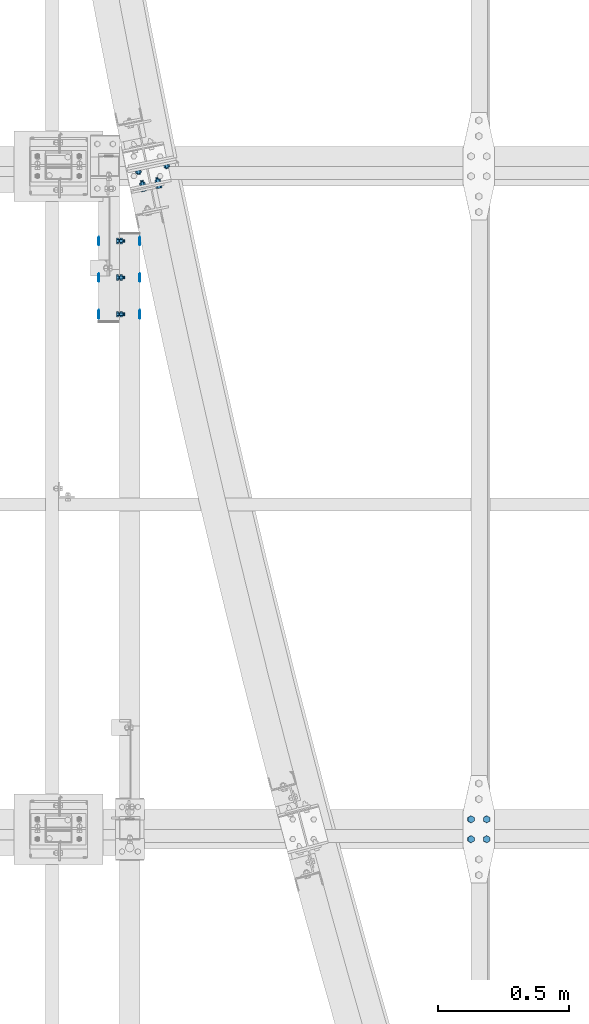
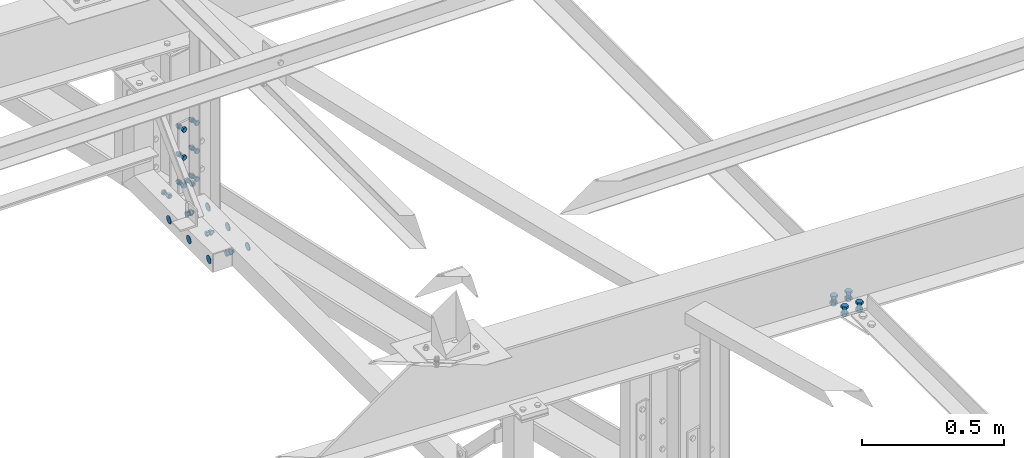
# One storey, part 65 of 3134: 6 mechanical fasteners, 5 elements without a shape of their own.
"""IFC2X3 building model written with IfcOpenShell, lengths in millimetres."""

from ifc_helpers import new_model, si_unit, frame, origin_with_axes, place, context, subcontext, project, spatial, faceted_brep, source, transform, mapped, material, type_object, element, aggregate, save


model = new_model("IFC2X3")

# Units and contexts
model_context = context("Model", 3, precision=1e-05, world=origin_with_axes())
body_context = subcontext(model_context, "Body", "Model", "MODEL_VIEW")
ifc_project = project(units=[si_unit("LENGTHUNIT", "METRE", prefix="MILLI"), si_unit("AREAUNIT", "SQUARE_METRE"), si_unit("VOLUMEUNIT", "CUBIC_METRE"), si_unit("MASSUNIT", "GRAM", prefix="KILO"), si_unit("TIMEUNIT", "SECOND"), si_unit("PLANEANGLEUNIT", "RADIAN"), si_unit("SOLIDANGLEUNIT", "STERADIAN"), si_unit("THERMODYNAMICTEMPERATUREUNIT", "DEGREE_CELSIUS"), si_unit("LUMINOUSINTENSITYUNIT", "LUMEN")], contexts=[model_context])

# Site, building, storey
site_placement = place(None, origin_with_axes())
site = spatial("IfcSite", under=ifc_project, at=site_placement, CompositionType="ELEMENT")
building_placement = place(site_placement, origin_with_axes())
building = spatial("IfcBuilding", under=site, at=building_placement, Name="Undefined", CompositionType="ELEMENT")
storey_placement = place(building_placement, origin_with_axes())
storey = spatial("IfcBuildingStorey", under=building, at=storey_placement, Name="Undefined", CompositionType="ELEMENT", Elevation=0.0)

# Assembly, mechanical fastener
assembly_1_placement = place(storey_placement, origin_with_axes())
assembly_1 = element("IfcElementAssembly", 1, at=assembly_1_placement, inside=storey, AssemblyPlace="NOTDEFINED", PredefinedType="RIGID_FRAME")
ifc_material = material(Name="8.8")
mechanical_fastener_type = type_object("IfcMechanicalFastenerType", Name="Bolt assembly")
shared_shape_1 = source(origin_with_axes(), body_context, "Body", "Brep", [
    faceted_brep([(16.5, -3.0, 0.0), (14.289419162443, -3.0, 8.25000000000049), (8.24999999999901, -3.0, 14.2894191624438), (-1.70995436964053e-12, -3.0, 16.5), (-8.25000000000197, -3.0, 14.2894191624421), (-14.2894191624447, -3.0, 8.24999999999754), (-16.5, -3.0, -3.41990873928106e-12), (-14.2894191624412, -3.0, -8.25000000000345), (-8.24999999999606, -3.0, -14.2894191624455), (5.11154442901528e-12, -3.0, -16.5), (8.25000000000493, -3.0, -14.2894191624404), (14.2894191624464, -3.0, -8.24999999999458), (14.2894191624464, 0.1, -8.24999999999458), (8.25000000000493, 0.1, -14.2894191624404), (5.11154442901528e-12, 0.1, -16.5), (-8.24999999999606, 0.1, -14.2894191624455), (-14.2894191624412, 0.1, -8.25000000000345), (-16.5, 0.1, -3.41990873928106e-12), (-14.2894191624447, 0.1, 8.24999999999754), (-8.25000000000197, 0.1, 14.2894191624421), (-1.70995436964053e-12, 0.1, 16.5), (8.24999999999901, 0.1, 14.2894191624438), (14.289419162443, 0.1, 8.25000000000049), (16.5, 0.1, 0.0)], [[[0, 1, 2, 3, 4, 5, 6, 7, 8, 9, 10, 11]], [[12, 13, 14, 15, 16, 17, 18, 19, 20, 21, 22, 23]], [[0, 23, 22, 1]], [[1, 22, 21, 2]], [[2, 21, 20, 3]], [[3, 20, 19, 4]], [[4, 19, 18, 5]], [[5, 18, 17, 6]], [[6, 17, 16, 7]], [[7, 16, 15, 8]], [[8, 15, 14, 9]], [[9, 14, 13, 10]], [[10, 13, 12, 11]], [[11, 12, 23, 0]]]),
])
mechanical_fastener_1_placement = place(assembly_1_placement, frame((3355.0, 24227.5, 3080.0), z_axis=(0.0, 0.0, 1.0), x_axis=(0.0, -1.0, 0.0)))
mechanical_fastener_1 = element("IfcMechanicalFastener", 2, at=mechanical_fastener_1_placement, type_object=mechanical_fastener_type, material=ifc_material, Name="Bolt assembly", NominalDiameter=30.0, NominalLength=3.0, context=body_context, shape_type="MappedRepresentation", body=[
    mapped(shared_shape_1, transform((0.0, 0.0, 0.0))),
    mapped(shared_shape_1, transform((140.0, 0.0, 0.0))),
    mapped(shared_shape_1, transform((280.0, 0.0, 0.0))),
])
aggregate(assembly_1, [mechanical_fastener_1])

# Assembly, mechanical fasteners
assembly_2_placement = place(storey_placement, origin_with_axes())
assembly_2 = element("IfcElementAssembly", 3, at=assembly_2_placement, inside=storey, AssemblyPlace="NOTDEFINED", PredefinedType="RIGID_FRAME")
shared_shape_2 = source(origin_with_axes(), body_context, "Body", "Brep", [
    faceted_brep([(16.5, 0.0, 0.0), (14.289419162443, 0.0, 8.25000000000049), (8.24999999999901, 0.0, 14.2894191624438), (-1.70995436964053e-12, 0.0, 16.5), (-8.25000000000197, 0.0, 14.2894191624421), (-14.2894191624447, 0.0, 8.24999999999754), (-16.5, 0.0, -3.41990873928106e-12), (-14.2894191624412, 0.0, -8.25000000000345), (-8.24999999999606, 0.0, -14.2894191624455), (5.11154442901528e-12, 0.0, -16.5), (8.25000000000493, 0.0, -14.2894191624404), (14.2894191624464, 0.0, -8.24999999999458), (14.2894191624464, 3.1, -8.24999999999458), (8.25000000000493, 3.1, -14.2894191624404), (5.11154442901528e-12, 3.1, -16.5), (-8.24999999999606, 3.1, -14.2894191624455), (-14.2894191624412, 3.1, -8.25000000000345), (-16.5, 3.1, -3.41990873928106e-12), (-14.2894191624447, 3.1, 8.24999999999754), (-8.25000000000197, 3.1, 14.2894191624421), (-1.70995436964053e-12, 3.1, 16.5), (8.24999999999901, 3.1, 14.2894191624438), (14.289419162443, 3.1, 8.25000000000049), (16.5, 3.1, 0.0)], [[[0, 1, 2, 3, 4, 5, 6, 7, 8, 9, 10, 11]], [[12, 13, 14, 15, 16, 17, 18, 19, 20, 21, 22, 23]], [[0, 23, 22, 1]], [[1, 22, 21, 2]], [[2, 21, 20, 3]], [[3, 20, 19, 4]], [[4, 19, 18, 5]], [[5, 18, 17, 6]], [[6, 17, 16, 7]], [[7, 16, 15, 8]], [[8, 15, 14, 9]], [[9, 14, 13, 10]], [[10, 13, 12, 11]], [[11, 12, 23, 0]]]),
])
mechanical_fastener_2_placement = place(assembly_2_placement, frame((3195.0, 24227.5, 3080.0), z_axis=(0.0, 0.0, 1.0), x_axis=(0.0, -1.0, 0.0)))
mechanical_fastener_2 = element("IfcMechanicalFastener", 4, at=mechanical_fastener_2_placement, type_object=mechanical_fastener_type, material=ifc_material, Name="Bolt assembly", NominalDiameter=30.0, NominalLength=3.0, context=body_context, shape_type="MappedRepresentation", body=[
    mapped(shared_shape_2, transform((0.0, 0.0, 0.0))),
    mapped(shared_shape_2, transform((140.0, 0.0, 0.0))),
    mapped(shared_shape_2, transform((280.0, 0.0, 0.0))),
])
shared_shape_3 = source(origin_with_axes(), body_context, "Body", "Brep", [
    faceted_brep([(10.9696551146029, -11.0, 0.0), (5.48482755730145, -11.0, 9.5), (-5.48482755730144, -11.0, 9.5), (-10.9696551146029, -11.0, 1.34339530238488e-15), (-5.48482755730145, -11.0, -9.5), (5.48482755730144, -11.0, -9.50000000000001), (5.48482755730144, -3.0, -9.50000000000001), (-5.48482755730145, -3.0, -9.5), (-10.9696551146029, -3.0, 1.34339530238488e-15), (-5.48482755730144, -3.0, 9.5), (5.48482755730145, -3.0, 9.5), (10.9696551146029, -3.0, 0.0), (6.0, -3.0, 0.0), (5.19615242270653, -3.0, 3.00000000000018), (2.99999999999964, -3.0, 5.19615242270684), (-6.21801588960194e-13, -3.0, 6.0), (-3.00000000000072, -3.0, 5.19615242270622), (-5.19615242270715, -3.0, 2.9999999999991), (-6.0, -3.0, -1.24360317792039e-12), (-5.19615242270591, -3.0, -3.00000000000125), (-2.99999999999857, -3.0, -5.19615242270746), (1.85874342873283e-12, -3.0, -6.0), (3.00000000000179, -3.0, -5.1961524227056), (5.19615242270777, -3.0, -2.99999999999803), (5.19615242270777, 22.0, -2.99999999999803), (3.00000000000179, 22.0, -5.1961524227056), (1.85874342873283e-12, 22.0, -6.0), (-2.99999999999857, 22.0, -5.19615242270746), (-5.19615242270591, 22.0, -3.00000000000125), (-6.0, 22.0, -1.24360317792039e-12), (-5.19615242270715, 22.0, 2.9999999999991), (-3.00000000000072, 22.0, 5.19615242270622), (-6.21801588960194e-13, 22.0, 6.0), (2.99999999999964, 22.0, 5.19615242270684), (5.19615242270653, 22.0, 3.00000000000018), (6.0, 22.0, 0.0), (10.9696551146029, 3.00000000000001, 0.0), (5.48482755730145, 3.00000000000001, 9.5), (-5.48482755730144, 3.00000000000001, 9.5), (-10.9696551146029, 3.00000000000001, 1.34339530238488e-15), (-5.48482755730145, 3.00000000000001, -9.5), (5.48482755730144, 3.00000000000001, -9.50000000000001), (5.48482755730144, 13.0, -9.50000000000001), (-5.48482755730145, 13.0, -9.5), (-10.9696551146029, 13.0, 1.34339530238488e-15), (-5.48482755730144, 13.0, 9.5), (5.48482755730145, 13.0, 9.5), (10.9696551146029, 13.0, 0.0)], [[[0, 1, 2, 3, 4, 5]], [[6, 7, 8, 9, 10, 11]], [[0, 11, 10, 1]], [[1, 10, 9, 2]], [[2, 9, 8, 3]], [[3, 8, 7, 4]], [[4, 7, 6, 5]], [[5, 6, 11, 0]], [[12, 13, 14, 15, 16, 17, 18, 19, 20, 21, 22, 23]], [[24, 25, 26, 27, 28, 29, 30, 31, 32, 33, 34, 35]], [[12, 35, 34, 13]], [[13, 34, 33, 14]], [[14, 33, 32, 15]], [[15, 32, 31, 16]], [[16, 31, 30, 17]], [[17, 30, 29, 18]], [[18, 29, 28, 19]], [[19, 28, 27, 20]], [[20, 27, 26, 21]], [[21, 26, 25, 22]], [[22, 25, 24, 23]], [[23, 24, 35, 12]], [[36, 37, 38, 39, 40, 41]], [[42, 43, 44, 45, 46, 47]], [[36, 47, 46, 37]], [[37, 46, 45, 38]], [[38, 45, 44, 39]], [[39, 44, 43, 40]], [[40, 43, 42, 41]], [[41, 42, 47, 36]]]),
    faceted_brep([(7.0, -0.1, 0.0), (6.06217782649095, -0.1, 3.50000000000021), (3.49999999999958, -0.1, 6.06217782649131), (-7.25435187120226e-13, -0.1, 7.0), (-3.50000000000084, -0.1, 6.06217782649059), (-6.06217782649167, -0.1, 3.49999999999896), (-7.0, -0.1, -1.45087037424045e-12), (-6.06217782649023, -0.1, -3.50000000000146), (-3.49999999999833, -0.1, -6.06217782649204), (2.1685340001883e-12, -0.1, -7.0), (3.50000000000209, -0.1, -6.06217782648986), (6.0621778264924, -0.1, -3.4999999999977), (6.0621778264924, 3.0, -3.4999999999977), (3.50000000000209, 3.0, -6.06217782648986), (2.1685340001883e-12, 3.0, -7.0), (-3.49999999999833, 3.0, -6.06217782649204), (-6.06217782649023, 3.0, -3.50000000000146), (-7.0, 3.0, -1.45087037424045e-12), (-6.06217782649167, 3.0, 3.49999999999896), (-3.50000000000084, 3.0, 6.06217782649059), (-7.25435187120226e-13, 3.0, 7.0), (3.49999999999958, 3.0, 6.06217782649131), (6.06217782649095, 3.0, 3.50000000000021), (7.0, 3.0, 0.0), (7.0, -2.9, 0.0), (6.06217782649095, -2.9, 3.50000000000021), (3.49999999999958, -2.9, 6.06217782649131), (-7.25435187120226e-13, -2.9, 7.0), (-3.50000000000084, -2.9, 6.06217782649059), (-6.06217782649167, -2.9, 3.49999999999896), (-7.0, -2.9, -1.45087037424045e-12), (-6.06217782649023, -2.9, -3.50000000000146), (-3.49999999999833, -2.9, -6.06217782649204), (2.1685340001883e-12, -2.9, -7.0), (3.50000000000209, -2.9, -6.06217782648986), (6.0621778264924, -2.9, -3.4999999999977), (6.0621778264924, 0.0999999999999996, -3.4999999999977), (3.50000000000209, 0.0999999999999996, -6.06217782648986), (2.1685340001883e-12, 0.0999999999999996, -7.0), (-3.49999999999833, 0.0999999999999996, -6.06217782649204), (-6.06217782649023, 0.0999999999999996, -3.50000000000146), (-7.0, 0.0999999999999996, -1.45087037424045e-12), (-6.06217782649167, 0.0999999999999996, 3.49999999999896), (-3.50000000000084, 0.0999999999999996, 6.06217782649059), (-7.25435187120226e-13, 0.0999999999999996, 7.0), (3.49999999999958, 0.0999999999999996, 6.06217782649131), (6.06217782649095, 0.0999999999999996, 3.50000000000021), (7.0, 0.0999999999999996, 0.0)], [[[0, 1, 2, 3, 4, 5, 6, 7, 8, 9, 10, 11]], [[12, 13, 14, 15, 16, 17, 18, 19, 20, 21, 22, 23]], [[0, 23, 22, 1]], [[1, 22, 21, 2]], [[2, 21, 20, 3]], [[3, 20, 19, 4]], [[4, 19, 18, 5]], [[5, 18, 17, 6]], [[6, 17, 16, 7]], [[7, 16, 15, 8]], [[8, 15, 14, 9]], [[9, 14, 13, 10]], [[10, 13, 12, 11]], [[11, 12, 23, 0]], [[24, 25, 26, 27, 28, 29, 30, 31, 32, 33, 34, 35]], [[36, 37, 38, 39, 40, 41, 42, 43, 44, 45, 46, 47]], [[24, 47, 46, 25]], [[25, 46, 45, 26]], [[26, 45, 44, 27]], [[27, 44, 43, 28]], [[28, 43, 42, 29]], [[29, 42, 41, 30]], [[30, 41, 40, 31]], [[31, 40, 39, 32]], [[32, 39, 38, 33]], [[33, 38, 37, 34]], [[34, 37, 36, 35]], [[35, 36, 47, 24]]]),
])
mechanical_fastener_3_placement = place(assembly_2_placement, frame((3275.0, 24227.5, 3080.0), z_axis=(0.0, 0.0, 1.0), x_axis=(0.0, -1.0, 0.0)))
mechanical_fastener_3 = element("IfcMechanicalFastener", 5, at=mechanical_fastener_3_placement, type_object=mechanical_fastener_type, material=ifc_material, Name="Bolt assembly", NominalDiameter=12.0, NominalLength=25.0, context=body_context, shape_type="MappedRepresentation", body=[
    mapped(shared_shape_3, transform((0.0, 0.0, 0.0))),
    mapped(shared_shape_3, transform((140.0, 0.0, 0.0))),
    mapped(shared_shape_3, transform((280.0, 0.0, 0.0))),
])
aggregate(assembly_2, [mechanical_fastener_2, mechanical_fastener_3])

# Assembly, mechanical fastener
assembly_3_placement = place(storey_placement, origin_with_axes())
assembly_3 = element("IfcElementAssembly", 6, at=assembly_3_placement, inside=storey, Name="HEA160", AssemblyPlace="NOTDEFINED", PredefinedType="RIGID_FRAME")
shared_shape_4 = source(origin_with_axes(), body_context, "Body", "Brep", [
    faceted_brep([(10.9696551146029, -16.0, 0.0), (5.48482755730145, -16.0, 9.5), (-5.48482755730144, -16.0, 9.5), (-10.9696551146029, -16.0, 1.34339530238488e-15), (-5.48482755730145, -16.0, -9.5), (5.48482755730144, -16.0, -9.50000000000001), (5.48482755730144, -8.0, -9.50000000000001), (-5.48482755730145, -8.0, -9.5), (-10.9696551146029, -8.0, 1.34339530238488e-15), (-5.48482755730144, -8.0, 9.5), (5.48482755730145, -8.0, 9.5), (10.9696551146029, -8.0, 0.0), (6.0, -8.0, 0.0), (5.19615242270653, -8.0, 3.00000000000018), (2.99999999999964, -8.0, 5.19615242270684), (-6.21801588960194e-13, -8.0, 6.0), (-3.00000000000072, -8.0, 5.19615242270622), (-5.19615242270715, -8.0, 2.9999999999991), (-6.0, -8.0, -1.24360317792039e-12), (-5.19615242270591, -8.0, -3.00000000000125), (-2.99999999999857, -8.0, -5.19615242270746), (1.85874342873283e-12, -8.0, -6.0), (3.00000000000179, -8.0, -5.1961524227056), (5.19615242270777, -8.0, -2.99999999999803), (5.19615242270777, 27.0, -2.99999999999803), (3.00000000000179, 27.0, -5.1961524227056), (1.85874342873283e-12, 27.0, -6.0), (-2.99999999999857, 27.0, -5.19615242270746), (-5.19615242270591, 27.0, -3.00000000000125), (-6.0, 27.0, -1.24360317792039e-12), (-5.19615242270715, 27.0, 2.9999999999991), (-3.00000000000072, 27.0, 5.19615242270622), (-6.21801588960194e-13, 27.0, 6.0), (2.99999999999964, 27.0, 5.19615242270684), (5.19615242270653, 27.0, 3.00000000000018), (6.0, 27.0, 0.0), (10.9696551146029, 9.00000000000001, 0.0), (5.48482755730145, 9.00000000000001, 9.5), (-5.48482755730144, 9.00000000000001, 9.5), (-10.9696551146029, 9.00000000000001, 1.34339530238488e-15), (-5.48482755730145, 9.00000000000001, -9.5), (5.48482755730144, 9.00000000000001, -9.50000000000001), (5.48482755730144, 19.0, -9.50000000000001), (-5.48482755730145, 19.0, -9.5), (-10.9696551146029, 19.0, 1.34339530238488e-15), (-5.48482755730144, 19.0, 9.5), (5.48482755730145, 19.0, 9.5), (10.9696551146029, 19.0, 0.0)], [[[0, 1, 2, 3, 4, 5]], [[6, 7, 8, 9, 10, 11]], [[0, 11, 10, 1]], [[1, 10, 9, 2]], [[2, 9, 8, 3]], [[3, 8, 7, 4]], [[4, 7, 6, 5]], [[5, 6, 11, 0]], [[12, 13, 14, 15, 16, 17, 18, 19, 20, 21, 22, 23]], [[24, 25, 26, 27, 28, 29, 30, 31, 32, 33, 34, 35]], [[12, 35, 34, 13]], [[13, 34, 33, 14]], [[14, 33, 32, 15]], [[15, 32, 31, 16]], [[16, 31, 30, 17]], [[17, 30, 29, 18]], [[18, 29, 28, 19]], [[19, 28, 27, 20]], [[20, 27, 26, 21]], [[21, 26, 25, 22]], [[22, 25, 24, 23]], [[23, 24, 35, 12]], [[36, 37, 38, 39, 40, 41]], [[42, 43, 44, 45, 46, 47]], [[36, 47, 46, 37]], [[37, 46, 45, 38]], [[38, 45, 44, 39]], [[39, 44, 43, 40]], [[40, 43, 42, 41]], [[41, 42, 47, 36]]]),
    faceted_brep([(7.0, -7.9, 0.0), (6.06217782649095, -7.9, 3.50000000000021), (3.49999999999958, -7.9, 6.06217782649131), (-7.25435187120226e-13, -7.9, 7.0), (-3.50000000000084, -7.9, 6.06217782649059), (-6.06217782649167, -7.9, 3.49999999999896), (-7.0, -7.9, -1.45087037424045e-12), (-6.06217782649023, -7.9, -3.50000000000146), (-3.49999999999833, -7.9, -6.06217782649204), (2.1685340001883e-12, -7.9, -7.0), (3.50000000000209, -7.9, -6.06217782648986), (6.0621778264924, -7.9, -3.4999999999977), (6.0621778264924, 0.0999999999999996, -3.4999999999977), (3.50000000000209, 0.0999999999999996, -6.06217782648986), (2.1685340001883e-12, 0.0999999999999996, -7.0), (-3.49999999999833, 0.0999999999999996, -6.06217782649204), (-6.06217782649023, 0.0999999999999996, -3.50000000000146), (-7.0, 0.0999999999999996, -1.45087037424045e-12), (-6.06217782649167, 0.0999999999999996, 3.49999999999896), (-3.50000000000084, 0.0999999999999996, 6.06217782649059), (-7.25435187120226e-13, 0.0999999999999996, 7.0), (3.49999999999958, 0.0999999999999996, 6.06217782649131), (6.06217782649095, 0.0999999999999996, 3.50000000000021), (7.0, 0.0999999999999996, 0.0), (7.0, -0.1, 0.0), (6.06217782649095, -0.1, 3.50000000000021), (3.49999999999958, -0.1, 6.06217782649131), (-7.25435187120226e-13, -0.1, 7.0), (-3.50000000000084, -0.1, 6.06217782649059), (-6.06217782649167, -0.1, 3.49999999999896), (-7.0, -0.1, -1.45087037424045e-12), (-6.06217782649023, -0.1, -3.50000000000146), (-3.49999999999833, -0.1, -6.06217782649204), (2.1685340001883e-12, -0.1, -7.0), (3.50000000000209, -0.1, -6.06217782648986), (6.0621778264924, -0.1, -3.4999999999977), (6.0621778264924, 9.00000000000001, -3.4999999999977), (3.50000000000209, 9.00000000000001, -6.06217782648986), (2.1685340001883e-12, 9.00000000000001, -7.0), (-3.49999999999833, 9.00000000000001, -6.06217782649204), (-6.06217782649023, 9.00000000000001, -3.50000000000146), (-7.0, 9.00000000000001, -1.45087037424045e-12), (-6.06217782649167, 9.00000000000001, 3.49999999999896), (-3.50000000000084, 9.00000000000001, 6.06217782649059), (-7.25435187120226e-13, 9.00000000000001, 7.0), (3.49999999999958, 9.00000000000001, 6.06217782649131), (6.06217782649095, 9.00000000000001, 3.50000000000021), (7.0, 9.00000000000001, 0.0)], [[[0, 1, 2, 3, 4, 5, 6, 7, 8, 9, 10, 11]], [[12, 13, 14, 15, 16, 17, 18, 19, 20, 21, 22, 23]], [[0, 23, 22, 1]], [[1, 22, 21, 2]], [[2, 21, 20, 3]], [[3, 20, 19, 4]], [[4, 19, 18, 5]], [[5, 18, 17, 6]], [[6, 17, 16, 7]], [[7, 16, 15, 8]], [[8, 15, 14, 9]], [[9, 14, 13, 10]], [[10, 13, 12, 11]], [[11, 12, 23, 0]], [[24, 25, 26, 27, 28, 29, 30, 31, 32, 33, 34, 35]], [[36, 37, 38, 39, 40, 41, 42, 43, 44, 45, 46, 47]], [[24, 47, 46, 25]], [[25, 46, 45, 26]], [[26, 45, 44, 27]], [[27, 44, 43, 28]], [[28, 43, 42, 29]], [[29, 42, 41, 30]], [[30, 41, 40, 31]], [[31, 40, 39, 32]], [[32, 39, 38, 33]], [[33, 38, 37, 34]], [[34, 37, 36, 35]], [[35, 36, 47, 24]]]),
])
mechanical_fastener_4_placement = place(assembly_3_placement, frame((3365.98550478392, 24432.0240351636, 3170.0), z_axis=(0.0, 0.0, 1.0), x_axis=(0.979632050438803, 0.200801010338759, 0.0)))
mechanical_fastener_4 = element("IfcMechanicalFastener", 7, at=mechanical_fastener_4_placement, type_object=mechanical_fastener_type, material=ifc_material, Name="Bolt assembly", NominalDiameter=12.0, NominalLength=35.0, context=body_context, shape_type="MappedRepresentation", body=[
    mapped(shared_shape_4, transform((0.0, 0.0, -120.0))),
    mapped(shared_shape_4, transform((60.0000000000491, 0.0, -120.0))),
    mapped(shared_shape_4, transform((0.0, 0.0, 0.0))),
    mapped(shared_shape_4, transform((59.9999999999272, 0.0, 5.40239852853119e-10))),
    mapped(shared_shape_4, transform((0.0, 0.0, 120.0))),
    mapped(shared_shape_4, transform((60.0000000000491, 0.0, 120.0))),
])
aggregate(assembly_3, [mechanical_fastener_4])

assembly_4_placement = place(storey_placement, origin_with_axes())
assembly_4 = element("IfcElementAssembly", 8, at=assembly_4_placement, inside=storey, Name="UPN200", AssemblyPlace="NOTDEFINED", PredefinedType="RIGID_FRAME")
shared_shape_5 = source(origin_with_axes(), body_context, "Body", "Brep", [
    faceted_brep([(10.9696551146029, -18.0, 0.0), (5.48482755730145, -18.0, 9.5), (-5.48482755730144, -18.0, 9.5), (-10.9696551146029, -18.0, 1.34339530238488e-15), (-5.48482755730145, -18.0, -9.5), (5.48482755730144, -18.0, -9.50000000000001), (5.48482755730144, -10.0, -9.50000000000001), (-5.48482755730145, -10.0, -9.5), (-10.9696551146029, -10.0, 1.34339530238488e-15), (-5.48482755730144, -10.0, 9.5), (5.48482755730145, -10.0, 9.5), (10.9696551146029, -10.0, 0.0), (6.0, -10.0, 0.0), (5.19615242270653, -10.0, 3.00000000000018), (2.99999999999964, -10.0, 5.19615242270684), (-6.21801588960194e-13, -10.0, 6.0), (-3.00000000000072, -10.0, 5.19615242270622), (-5.19615242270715, -10.0, 2.9999999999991), (-6.0, -10.0, -1.24360317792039e-12), (-5.19615242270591, -10.0, -3.00000000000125), (-2.99999999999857, -10.0, -5.19615242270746), (1.85874342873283e-12, -10.0, -6.0), (3.00000000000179, -10.0, -5.1961524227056), (5.19615242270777, -10.0, -2.99999999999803), (5.19615242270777, 24.9999999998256, -2.99999999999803), (3.00000000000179, 24.9999999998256, -5.1961524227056), (1.85874342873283e-12, 24.9999999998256, -6.0), (-2.99999999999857, 24.9999999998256, -5.19615242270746), (-5.19615242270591, 24.9999999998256, -3.00000000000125), (-6.0, 24.9999999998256, -1.24360317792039e-12), (-5.19615242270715, 24.9999999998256, 2.9999999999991), (-3.00000000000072, 24.9999999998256, 5.19615242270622), (-6.21801588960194e-13, 24.9999999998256, 6.0), (2.99999999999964, 24.9999999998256, 5.19615242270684), (5.19615242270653, 24.9999999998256, 3.00000000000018), (6.0, 24.9999999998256, 0.0), (10.9696551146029, 10.0, 0.0), (5.48482755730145, 10.0, 9.5), (-5.48482755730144, 10.0, 9.5), (-10.9696551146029, 10.0, 1.34339530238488e-15), (-5.48482755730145, 10.0, -9.5), (5.48482755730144, 10.0, -9.50000000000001), (5.48482755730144, 20.0, -9.50000000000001), (-5.48482755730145, 20.0, -9.5), (-10.9696551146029, 20.0, 1.34339530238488e-15), (-5.48482755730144, 20.0, 9.5), (5.48482755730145, 20.0, 9.5), (10.9696551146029, 20.0, 0.0)], [[[0, 1, 2, 3, 4, 5]], [[6, 7, 8, 9, 10, 11]], [[0, 11, 10, 1]], [[1, 10, 9, 2]], [[2, 9, 8, 3]], [[3, 8, 7, 4]], [[4, 7, 6, 5]], [[5, 6, 11, 0]], [[12, 13, 14, 15, 16, 17, 18, 19, 20, 21, 22, 23]], [[24, 25, 26, 27, 28, 29, 30, 31, 32, 33, 34, 35]], [[12, 35, 34, 13]], [[13, 34, 33, 14]], [[14, 33, 32, 15]], [[15, 32, 31, 16]], [[16, 31, 30, 17]], [[17, 30, 29, 18]], [[18, 29, 28, 19]], [[19, 28, 27, 20]], [[20, 27, 26, 21]], [[21, 26, 25, 22]], [[22, 25, 24, 23]], [[23, 24, 35, 12]], [[36, 37, 38, 39, 40, 41]], [[42, 43, 44, 45, 46, 47]], [[36, 47, 46, 37]], [[37, 46, 45, 38]], [[38, 45, 44, 39]], [[39, 44, 43, 40]], [[40, 43, 42, 41]], [[41, 42, 47, 36]]]),
    faceted_brep([(7.0, -0.1, 0.0), (6.06217782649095, -0.1, 3.50000000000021), (3.49999999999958, -0.1, 6.06217782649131), (-7.25435187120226e-13, -0.1, 7.0), (-3.50000000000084, -0.1, 6.06217782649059), (-6.06217782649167, -0.1, 3.49999999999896), (-7.0, -0.1, -1.45087037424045e-12), (-6.06217782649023, -0.1, -3.50000000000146), (-3.49999999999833, -0.1, -6.06217782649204), (2.1685340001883e-12, -0.1, -7.0), (3.50000000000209, -0.1, -6.06217782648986), (6.0621778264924, -0.1, -3.4999999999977), (6.0621778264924, 10.0, -3.4999999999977), (3.50000000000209, 10.0, -6.06217782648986), (2.1685340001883e-12, 10.0, -7.0), (-3.49999999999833, 10.0, -6.06217782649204), (-6.06217782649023, 10.0, -3.50000000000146), (-7.0, 10.0, -1.45087037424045e-12), (-6.06217782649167, 10.0, 3.49999999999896), (-3.50000000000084, 10.0, 6.06217782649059), (-7.25435187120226e-13, 10.0, 7.0), (3.49999999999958, 10.0, 6.06217782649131), (6.06217782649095, 10.0, 3.50000000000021), (7.0, 10.0, 0.0), (7.0, -9.89999913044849, 0.0), (6.06217782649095, -9.89999913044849, 3.50000000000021), (3.49999999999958, -9.89999913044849, 6.06217782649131), (-7.25435187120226e-13, -9.89999913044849, 7.0), (-3.50000000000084, -9.89999913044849, 6.06217782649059), (-6.06217782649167, -9.89999913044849, 3.49999999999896), (-7.0, -9.89999913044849, -1.45087037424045e-12), (-6.06217782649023, -9.89999913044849, -3.50000000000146), (-3.49999999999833, -9.89999913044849, -6.06217782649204), (2.1685340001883e-12, -9.89999913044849, -7.0), (3.50000000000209, -9.89999913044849, -6.06217782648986), (6.0621778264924, -9.89999913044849, -3.4999999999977), (6.0621778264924, 0.0999999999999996, -3.4999999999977), (3.50000000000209, 0.0999999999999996, -6.06217782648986), (2.1685340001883e-12, 0.0999999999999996, -7.0), (-3.49999999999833, 0.0999999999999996, -6.06217782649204), (-6.06217782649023, 0.0999999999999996, -3.50000000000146), (-7.0, 0.0999999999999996, -1.45087037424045e-12), (-6.06217782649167, 0.0999999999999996, 3.49999999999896), (-3.50000000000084, 0.0999999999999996, 6.06217782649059), (-7.25435187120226e-13, 0.0999999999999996, 7.0), (3.49999999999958, 0.0999999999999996, 6.06217782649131), (6.06217782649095, 0.0999999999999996, 3.50000000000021), (7.0, 0.0999999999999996, 0.0)], [[[0, 1, 2, 3, 4, 5, 6, 7, 8, 9, 10, 11]], [[12, 13, 14, 15, 16, 17, 18, 19, 20, 21, 22, 23]], [[0, 23, 22, 1]], [[1, 22, 21, 2]], [[2, 21, 20, 3]], [[3, 20, 19, 4]], [[4, 19, 18, 5]], [[5, 18, 17, 6]], [[6, 17, 16, 7]], [[7, 16, 15, 8]], [[8, 15, 14, 9]], [[9, 14, 13, 10]], [[10, 13, 12, 11]], [[11, 12, 23, 0]], [[24, 25, 26, 27, 28, 29, 30, 31, 32, 33, 34, 35]], [[36, 37, 38, 39, 40, 41, 42, 43, 44, 45, 46, 47]], [[24, 47, 46, 25]], [[25, 46, 45, 26]], [[26, 45, 44, 27]], [[27, 44, 43, 28]], [[28, 43, 42, 29]], [[29, 42, 41, 30]], [[30, 41, 40, 31]], [[31, 40, 39, 32]], [[32, 39, 38, 33]], [[33, 38, 37, 34]], [[34, 37, 36, 35]], [[35, 36, 47, 24]]]),
])
mechanical_fastener_5_placement = place(assembly_4_placement, frame((3453.02796116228, 24527.4885828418, 2970.00169874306), z_axis=(-1.97000019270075e-05, 6.22000060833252e-05, 0.999999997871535), x_axis=(-0.97963205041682, -0.200801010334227, -6.70000034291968e-06)))
mechanical_fastener_5 = element("IfcMechanicalFastener", 9, at=mechanical_fastener_5_placement, type_object=mechanical_fastener_type, material=ifc_material, Name="Bolt assembly", NominalDiameter=12.0, NominalLength=35.0, context=body_context, shape_type="MappedRepresentation", body=[
    mapped(shared_shape_5, transform((0.0, 0.0, 0.0))),
    mapped(shared_shape_5, transform((110.0, 0.0, 0.0))),
])
aggregate(assembly_4, [mechanical_fastener_5])

assembly_5_placement = place(storey_placement, origin_with_axes())
assembly_5 = element("IfcElementAssembly", 10, at=assembly_5_placement, inside=storey, Name="PL8", AssemblyPlace="NOTDEFINED", PredefinedType="RIGID_FRAME")
shared_shape_6 = source(origin_with_axes(), body_context, "Body", "Brep", [
    faceted_brep([(13.856406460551, -23.2000817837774, 0.0), (6.92820323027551, -23.2000817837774, 12.0), (-6.92820323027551, -23.2000817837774, 12.0), (-13.856406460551, -23.2000817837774, 1.69692038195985e-15), (-6.92820323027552, -23.2000817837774, -12.0), (6.9282032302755, -23.2000817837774, -12.0), (6.9282032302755, -13.2000817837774, -12.0), (-6.92820323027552, -13.2000817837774, -12.0), (-13.856406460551, -13.2000817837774, 1.69692038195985e-15), (-6.92820323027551, -13.2000817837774, 12.0), (6.92820323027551, -13.2000817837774, 12.0), (13.856406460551, -13.2000817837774, 0.0), (8.0, -13.2000817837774, 0.0), (6.92820323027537, -13.2000817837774, 4.00000000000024), (3.99999999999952, -13.2000817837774, 6.92820323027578), (-8.29068785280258e-13, -13.2000817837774, 8.0), (-4.00000000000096, -13.2000817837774, 6.92820323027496), (-6.9282032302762, -13.2000817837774, 3.99999999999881), (-8.0, -13.2000817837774, -1.65813757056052e-12), (-6.92820323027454, -13.2000817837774, -4.00000000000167), (-3.99999999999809, -13.2000817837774, -6.92820323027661), (2.47832457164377e-12, -13.2000817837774, -8.0), (4.00000000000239, -13.2000817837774, -6.92820323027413), (6.92820323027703, -13.2000817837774, -3.99999999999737), (6.92820323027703, 21.7999182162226, -3.99999999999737), (4.00000000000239, 21.7999182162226, -6.92820323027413), (2.47832457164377e-12, 21.7999182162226, -8.0), (-3.99999999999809, 21.7999182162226, -6.92820323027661), (-6.92820323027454, 21.7999182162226, -4.00000000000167), (-8.0, 21.7999182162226, -1.65813757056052e-12), (-6.9282032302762, 21.7999182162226, 3.99999999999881), (-4.00000000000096, 21.7999182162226, 6.92820323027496), (-8.29068785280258e-13, 21.7999182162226, 8.0), (3.99999999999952, 21.7999182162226, 6.92820323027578), (6.92820323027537, 21.7999182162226, 4.00000000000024), (8.0, 21.7999182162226, 0.0), (13.856406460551, 3.99999999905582, 0.0), (6.92820323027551, 3.99999999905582, 12.0), (-6.92820323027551, 3.99999999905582, 12.0), (-13.856406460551, 3.99999999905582, 1.69692038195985e-15), (-6.92820323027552, 3.99999999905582, -12.0), (6.9282032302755, 3.99999999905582, -12.0), (6.9282032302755, 16.9999999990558, -12.0), (-6.92820323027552, 16.9999999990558, -12.0), (-13.856406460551, 16.9999999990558, 1.69692038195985e-15), (-6.92820323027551, 16.9999999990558, 12.0), (6.92820323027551, 16.9999999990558, 12.0), (13.856406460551, 16.9999999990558, 0.0)], [[[0, 1, 2, 3, 4, 5]], [[6, 7, 8, 9, 10, 11]], [[0, 11, 10, 1]], [[1, 10, 9, 2]], [[2, 9, 8, 3]], [[3, 8, 7, 4]], [[4, 7, 6, 5]], [[5, 6, 11, 0]], [[12, 13, 14, 15, 16, 17, 18, 19, 20, 21, 22, 23]], [[24, 25, 26, 27, 28, 29, 30, 31, 32, 33, 34, 35]], [[12, 35, 34, 13]], [[13, 34, 33, 14]], [[14, 33, 32, 15]], [[15, 32, 31, 16]], [[16, 31, 30, 17]], [[17, 30, 29, 18]], [[18, 29, 28, 19]], [[19, 28, 27, 20]], [[20, 27, 26, 21]], [[21, 26, 25, 22]], [[22, 25, 24, 23]], [[23, 24, 35, 12]], [[36, 37, 38, 39, 40, 41]], [[42, 43, 44, 45, 46, 47]], [[36, 47, 46, 37]], [[37, 46, 45, 38]], [[38, 45, 44, 39]], [[39, 44, 43, 40]], [[40, 43, 42, 41]], [[41, 42, 47, 36]]]),
    faceted_brep([(9.0, -13.1000817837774, 0.0), (7.79422863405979, -13.1000817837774, 4.50000000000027), (4.49999999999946, -13.1000817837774, 7.79422863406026), (-9.3270238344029e-13, -13.1000817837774, 9.0), (-4.50000000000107, -13.1000817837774, 7.79422863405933), (-7.79422863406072, -13.1000817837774, 4.49999999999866), (-9.0, -13.1000817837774, -1.86540476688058e-12), (-7.79422863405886, -13.1000817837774, -4.50000000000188), (-4.49999999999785, -13.1000817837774, -7.79422863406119), (2.78811514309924e-12, -13.1000817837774, -9.0), (4.50000000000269, -13.1000817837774, -7.7942286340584), (7.79422863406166, -13.1000817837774, -4.49999999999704), (7.79422863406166, -3.90008197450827, -4.49999999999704), (4.50000000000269, -3.90008197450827, -7.7942286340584), (2.78811514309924e-12, -3.90008197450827, -9.0), (-4.49999999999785, -3.90008197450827, -7.79422863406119), (-7.79422863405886, -3.90008197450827, -4.50000000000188), (-9.0, -3.90008197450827, -1.86540476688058e-12), (-7.79422863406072, -3.90008197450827, 4.49999999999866), (-4.50000000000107, -3.90008197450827, 7.79422863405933), (-9.3270238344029e-13, -3.90008197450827, 9.0), (4.49999999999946, -3.90008197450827, 7.79422863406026), (7.79422863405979, -3.90008197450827, 4.50000000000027), (9.0, -3.90008197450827, 0.0), (9.0, -4.10000000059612, 0.0), (7.79422863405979, -4.10000000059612, 4.50000000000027), (4.49999999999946, -4.10000000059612, 7.79422863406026), (-9.3270238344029e-13, -4.10000000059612, 9.0), (-4.50000000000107, -4.10000000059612, 7.79422863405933), (-7.79422863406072, -4.10000000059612, 4.49999999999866), (-9.0, -4.10000000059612, -1.86540476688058e-12), (-7.79422863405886, -4.10000000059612, -4.50000000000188), (-4.49999999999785, -4.10000000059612, -7.79422863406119), (2.78811514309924e-12, -4.10000000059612, -9.0), (4.50000000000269, -4.10000000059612, -7.7942286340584), (7.79422863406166, -4.10000000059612, -4.49999999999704), (7.79422863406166, 4.00000375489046, -4.49999999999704), (4.50000000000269, 4.00000375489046, -7.7942286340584), (2.78811514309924e-12, 4.00000375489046, -9.0), (-4.49999999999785, 4.00000375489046, -7.79422863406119), (-7.79422863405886, 4.00000375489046, -4.50000000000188), (-9.0, 4.00000375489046, -1.86540476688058e-12), (-7.79422863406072, 4.00000375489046, 4.49999999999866), (-4.50000000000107, 4.00000375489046, 7.79422863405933), (-9.3270238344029e-13, 4.00000375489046, 9.0), (4.49999999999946, 4.00000375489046, 7.79422863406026), (7.79422863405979, 4.00000375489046, 4.50000000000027), (9.0, 4.00000375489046, 0.0)], [[[0, 1, 2, 3, 4, 5, 6, 7, 8, 9, 10, 11]], [[12, 13, 14, 15, 16, 17, 18, 19, 20, 21, 22, 23]], [[0, 23, 22, 1]], [[1, 22, 21, 2]], [[2, 21, 20, 3]], [[3, 20, 19, 4]], [[4, 19, 18, 5]], [[5, 18, 17, 6]], [[6, 17, 16, 7]], [[7, 16, 15, 8]], [[8, 15, 14, 9]], [[9, 14, 13, 10]], [[10, 13, 12, 11]], [[11, 12, 23, 0]], [[24, 25, 26, 27, 28, 29, 30, 31, 32, 33, 34, 35]], [[36, 37, 38, 39, 40, 41, 42, 43, 44, 45, 46, 47]], [[24, 47, 46, 25]], [[25, 46, 45, 26]], [[26, 45, 44, 27]], [[27, 44, 43, 28]], [[28, 43, 42, 29]], [[29, 42, 41, 30]], [[30, 41, 40, 31]], [[31, 40, 39, 32]], [[32, 39, 38, 33]], [[33, 38, 37, 34]], [[34, 37, 36, 35]], [[35, 36, 47, 24]]]),
])
mechanical_fastener_6_placement = place(assembly_5_placement, frame((4647.50483519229, 21943.25, 3576.15051900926), z_axis=(-0.999388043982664, 0.0, 0.0349791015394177), x_axis=(0.0, 1.0, 0.0)))
mechanical_fastener_6 = element("IfcMechanicalFastener", 11, at=mechanical_fastener_6_placement, type_object=mechanical_fastener_type, material=ifc_material, Name="Bolt assembly", NominalDiameter=16.0, NominalLength=35.0, context=body_context, shape_type="MappedRepresentation", body=[
    mapped(shared_shape_6, transform((0.0, 4.54747350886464e-13, -30.0000000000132))),
    mapped(shared_shape_6, transform((76.0, -2.00088834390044e-10, -29.9999999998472))),
    mapped(shared_shape_6, transform((0.0, 4.54747350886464e-13, 30.0000000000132))),
    mapped(shared_shape_6, transform((76.0, 1.98269844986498e-10, 29.9999999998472))),
])
aggregate(assembly_5, [mechanical_fastener_6])

save(model, "model.ifc")
